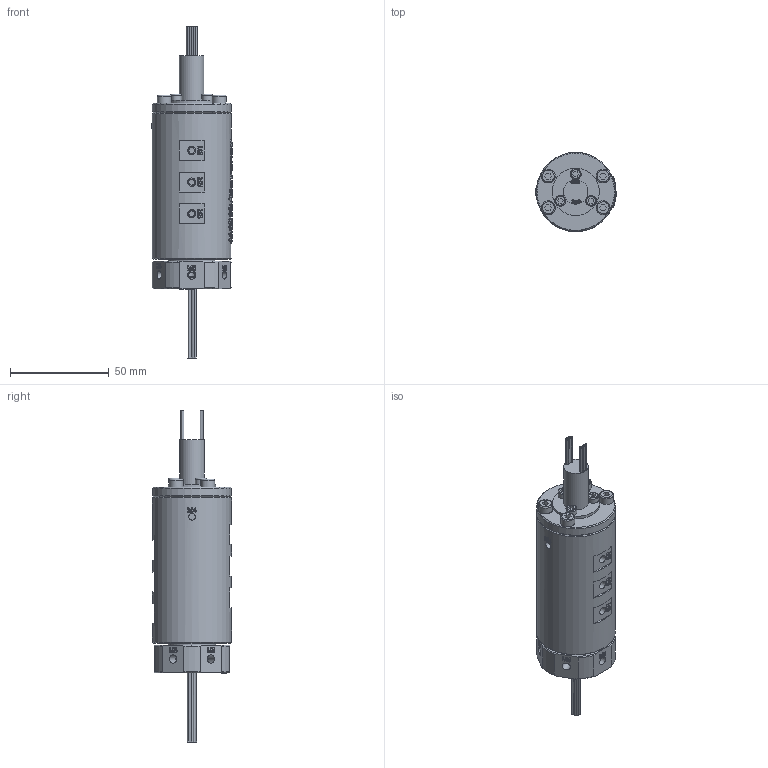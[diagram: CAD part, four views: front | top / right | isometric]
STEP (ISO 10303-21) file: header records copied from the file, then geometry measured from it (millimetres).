
FILE_DESCRIPTION(/* description */ (''),/* implementation_level */ '2;1');
FILE_NAME(/* name */ 'YQ06005-18M.stp',/* time_stamp */ '2025-09-01T16:02:09+08:00',/* author */ (''),/* organization */ (''),/* preprocessor_version */ 'ST-DEVELOPER v16.7',/* originating_system */ 'SIEMENS PLM Software NX 12.0',/* authorisation */ '');
FILE_SCHEMA (('AUTOMOTIVE_DESIGN { 1 0 10303 214 3 1 1 1 }'));
Products named in the file (1): AdmiB44865CDwd9m
Bounding box: 40.7 x 40 x 168 mm (x, y, z)
Volume: 118168.8 mm3; surface area: 24205.5 mm2
Topology: 1 solids, 9 shells, 1603 faces, 4288 edges, 2859 vertices
Faces by surface type: plane 706, extrusion 660, cylinder 140, bspline 61, cone 29, torus 7
Full cylindrical faces by diameter (mm): 0.8 x37, 3 x15, 3.4 x9, 4 x10, 4.1 x6, 4.2 x18, 5 x1, 5.5 x3, 6 x1, 7 x4, 12.4 x1, 23.9 x1, 24 x1, 32 x1, 40 x2
Entity records: 59168 total; most frequent: CARTESIAN_POINT 25193, ORIENTED_EDGE 8144, DIRECTION 4224, EDGE_CURVE 4072, B_SPLINE_CURVE_WITH_KNOTS 3373, VERTEX_POINT 2785, EDGE_LOOP 1925, ADVANCED_FACE 1603
